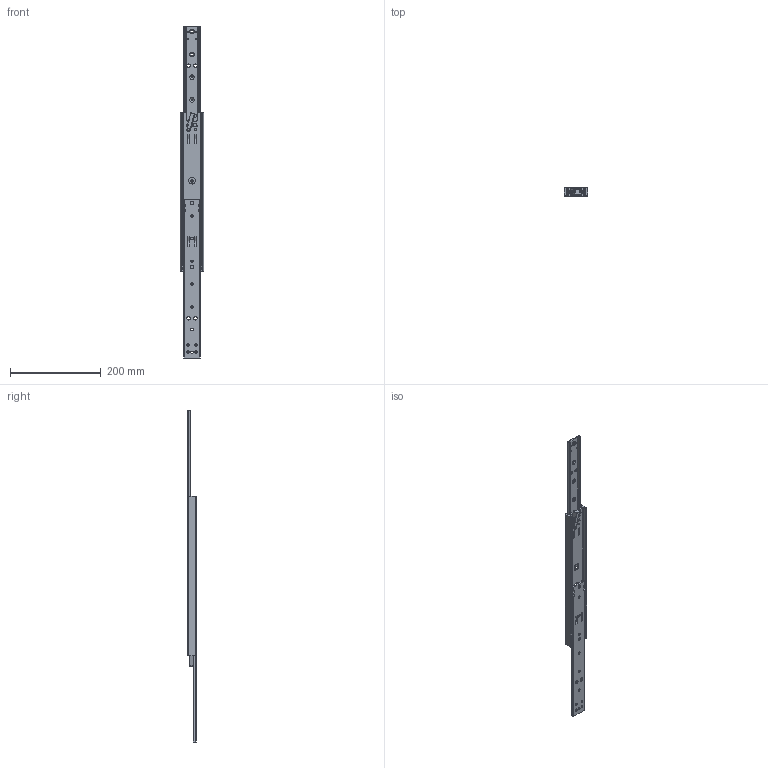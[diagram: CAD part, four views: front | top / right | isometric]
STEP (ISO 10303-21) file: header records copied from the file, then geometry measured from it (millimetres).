
FILE_DESCRIPTION (( 'STEP AP203' ), '1' );
FILE_NAME ('61_12285_04-open.STEP', '2022-03-25T09:49:58', ( '' ), ( '' ), 'SwSTEP 2.0', 'SolidWorks 2021', '' );
FILE_SCHEMA (( 'CONFIG_CONTROL_DESIGN' ));
Length unit declared in the file: millimetre
Products named in the file (12): 61_12719; 61_12282; 61_12285_04-open; 370_002_070; 61_12278_05; 61_13331_Pin Fitted; 61_12274; 61_12275; 301_000_008_Fitted; 61_12280_04_Beam Assembled - Stop Raises ; 61_12279_04; 400_000_004
Assembly tree (28 placements, depth 2):
  61_12285_04-open
    61_12279_04
    61_12280_04_Beam Assembled - Stop Raises   x2
    61_13331_Pin Fitted  x4
    61_12282
    301_000_008_Fitted  x2
    61_12275
    61_12274
    370_002_070  x2
    61_12719  x2
    400_000_004  x8
    61_12278_05  x4
Bounding box: 50.7 x 19.75 x 730 mm (x, y, z)
Volume: 202870.8 mm3; surface area: 141881.2 mm2
Topology: 28 solids, 28 shells, 1132 faces, 3060 edges, 1895 vertices
Faces by surface type: cylinder 536, plane 277, sphere 105, torus 93, cone 76, bspline 45
Entity records: 26840 total; most frequent: CARTESIAN_POINT 6572, DIRECTION 4048, ORIENTED_EDGE 3854, EDGE_CURVE 1927, AXIS2_PLACEMENT_3D 1602, VERTEX_POINT 1186, EDGE_LOOP 865, CIRCLE 854
